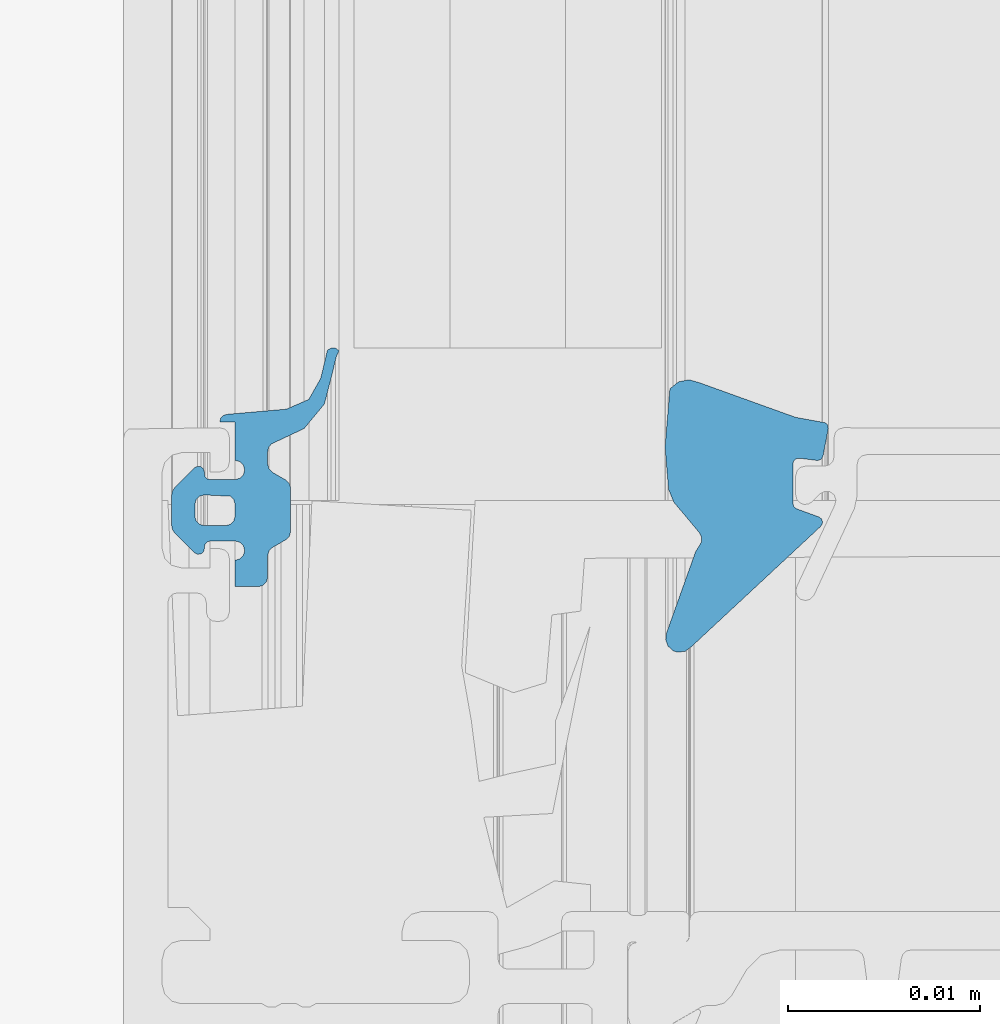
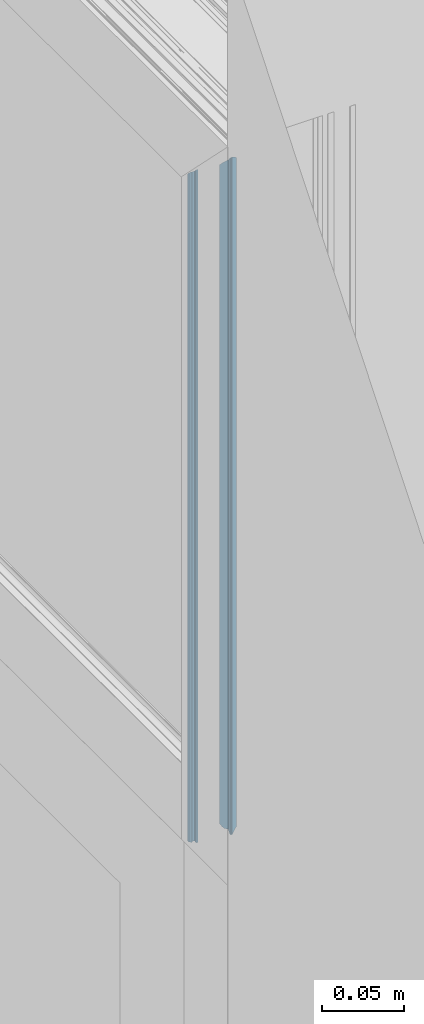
# One storey, part 29 of 62: 1 building element part, 2 elements without a shape of their own.
"""IFC2X3 building model written with IfcOpenShell, lengths in millimetres."""

from ifc_helpers import new_model, entity, si_unit, converted_unit, derived_unit, money_unit, direction, frame, origin_with_axes, place, context, subcontext, project, spatial, faceted_brep, source, transform, mapped, material, type_object, element, aggregate, save


model = new_model("IFC2X3")

# Units and contexts
model_context = context("Model", 3, precision=0.01, world=origin_with_axes(), true_north=direction((0.0, 1.0)))
body_context = subcontext(model_context, "Body", "Model", "MODEL_VIEW")
ifc_project = project(units=[si_unit("LENGTHUNIT", "METRE", prefix="MILLI"), si_unit("AREAUNIT", "SQUARE_METRE"), si_unit("VOLUMEUNIT", "CUBIC_METRE"), converted_unit("PLANEANGLEUNIT", "DEGREE", entity("IfcPlaneAngleMeasure", 0.0174532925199), si_unit("PLANEANGLEUNIT", "RADIAN"), dimensions=[0, 0, 0, 0, 0, 0, 0]), si_unit("SOLIDANGLEUNIT", "STERADIAN"), money_unit("EUR"), converted_unit("TIMEUNIT", "Year", entity("IfcTimeMeasure", 31556926.0), si_unit("TIMEUNIT", "SECOND"), dimensions=[0, 0, 1, 0, 0, 0, 0]), si_unit("MASSUNIT", "GRAM", prefix="KILO"), si_unit("THERMODYNAMICTEMPERATUREUNIT", "DEGREE_CELSIUS"), si_unit("LUMINOUSINTENSITYUNIT", "LUMEN"), si_unit("ENERGYUNIT", "JOULE", prefix="MEGA"), derived_unit("THERMALCONDUCTANCEUNIT", [(si_unit("POWERUNIT", "WATT"), 1), (si_unit("LENGTHUNIT", "METRE"), -1), (si_unit("THERMODYNAMICTEMPERATUREUNIT", "KELVIN"), -1)]), derived_unit("SPECIFICHEATCAPACITYUNIT", [(si_unit("ENERGYUNIT", "JOULE"), 1), (si_unit("MASSUNIT", "GRAM", prefix="KILO"), -1), (si_unit("THERMODYNAMICTEMPERATUREUNIT", "KELVIN"), -1)]), derived_unit("MASSDENSITYUNIT", [(si_unit("MASSUNIT", "GRAM", prefix="KILO"), 1), (si_unit("VOLUMEUNIT", "CUBIC_METRE"), -1)])], contexts=[model_context])

# Site, building, storey
site_placement = place(None, origin_with_axes())
site = spatial("IfcSite", under=ifc_project, at=site_placement, Name="Puškini 31, Narva", CompositionType="ELEMENT")
building_placement = place(site_placement, origin_with_axes())
building = spatial("IfcBuilding", under=site, at=building_placement, Name="Narva Riigigümnaasium", CompositionType="ELEMENT")
storey_placement = place(building_placement, frame((0.0, 0.0, 660.0), z_axis=(0.0, 0.0, 1.0), x_axis=(1.0, 0.0, 0.0)))
storey = spatial("IfcBuildingStorey", under=building, at=storey_placement, Name="2.korrus +0.66", CompositionType="ELEMENT", Elevation=660.0)

# Curtain wall, member, building element part
curtain_wall_type = type_object("IfcCurtainWallType", Name="Curtain Wall Type", PredefinedType="NOTDEFINED")
curtain_wall_placement = place(storey_placement, frame((47544.998162, 221675.502168, -2.45869393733e-05), z_axis=(0.0, 0.0, 1.0), x_axis=(1.0, 0.0, 0.0)))
curtain_wall = element("IfcCurtainWall", 1, at=curtain_wall_placement, inside=storey, type_object=curtain_wall_type, Name="G-SKLF-51")
member_type = type_object("IfcMemberType", Name="61 x 45", PredefinedType="MULLION")
member_placement = place(curtain_wall_placement, frame((0.00169612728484, -395.502317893, 2400.00002459), z_axis=(0.0, 0.0, 1.0), x_axis=(-4.28853941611e-06, 0.999999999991, 0.0)))
member = element("IfcMember", 2, at=member_placement, type_object=member_type, Name="G-SKLF-67-raam", ObjectType="MULLION")
aggregate(curtain_wall, [member])
ifc_material = material(Name="Membraan - Veekindel")
shared_shape = source(origin_with_axes(), body_context, "Body", "Brep", [
    faceted_brep([(61.0413385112, 34.3890442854, -1.80386372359e-07), (59.5800222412, 34.73794757, -1.80386372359e-07), (59.5800222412, 34.73794757, 490.419961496), (61.0413385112, 34.3890442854, 488.958645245), (61.1536677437, 34.1934467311, -1.80386372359e-07), (61.1423164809, 33.9681748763, -1.80386372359e-07), (61.0108941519, 33.784859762, -1.80386372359e-07), (60.7381535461, 33.9217644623, -1.80386372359e-07), (59.8409257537, 34.1343131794, -1.80386372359e-07), (58.2346494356, 34.5489145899, -1.80386372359e-07), (56.9567944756, 35.6067920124, -1.80386372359e-07), (56.2495873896, 37.1074172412, -1.80386372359e-07), (56.1542959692, 37.3107917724, -1.80386372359e-07), (55.9795989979, 37.4519392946, -1.80386372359e-07), (55.7607444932, 37.5023809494, -1.80386372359e-07), (55.1093263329, 37.5023809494, -1.80386372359e-07), (54.8593263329, 37.4353936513, -1.80386372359e-07), (54.676313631, 37.2523809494, -1.80386372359e-07), (54.2721684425, 36.5523809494, -1.80386372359e-07), (54.0891557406, 36.3693682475, -1.80386372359e-07), (53.8391557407, 36.3023809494, -1.80386372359e-07), (51.602145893, 36.3023809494, -1.80386372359e-07), (51.352145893, 36.3693682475, -1.80386372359e-07), (51.1691331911, 36.5523809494, -1.80386372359e-07), (50.7649880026, 37.2523809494, -1.80386372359e-07), (50.5819753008, 37.4353936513, -1.80386372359e-07), (50.3319753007, 37.5023809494, -1.80386372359e-07), (49.2206527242, 37.5023809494, -1.80386372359e-07), (48.9706527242, 37.5693682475, -1.80386372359e-07), (48.7876400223, 37.7523809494, -1.80386372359e-07), (48.7206527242, 38.0023809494, -1.80386372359e-07), (48.7206527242, 39.1999494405, -1.80386372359e-07), (50.10004, 39.1999494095, -1.80386372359e-07), (50.1670287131, 38.9499497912, -1.80386372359e-07), (50.3500424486, 38.7669381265, -1.80386372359e-07), (50.6000428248, 38.699952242, -1.80386372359e-07), (50.8500424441, 38.7669409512, -1.80386372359e-07), (51.0330541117, 38.9499546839, -1.80386372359e-07), (51.10004, 39.1999550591, -1.80386372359e-07), (51.10004, 40.4999366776, -1.80386372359e-07), (51.0598476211, 40.6499366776, -1.80386372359e-07), (50.95004, 40.7597442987, -1.80386372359e-07), (50.80004, 40.7999366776, -1.80386372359e-07), (50.7000457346, 40.7999366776, -1.80386372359e-07), (50.5334025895, 40.8504763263, -1.80386372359e-07), (50.4229059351, 40.9850671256, -1.80386372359e-07), (50.4057850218, 41.1583618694, -1.80386372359e-07), (50.4878083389, 41.3119729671, -1.80386372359e-07), (51.5281601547, 42.3533311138, -1.80386372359e-07), (51.6904310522, 42.4618421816, -1.80386372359e-07), (51.8818844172, 42.4999486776, -1.80386372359e-07), (53.517932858, 42.4999486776, -1.80386372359e-07), (53.7093558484, 42.4618547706, -1.80386372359e-07), (53.8716106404, 42.3533776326, -1.80386372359e-07), (54.9122350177, 41.3120206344, -1.80386372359e-07), (54.9942836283, 41.1584047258, -1.80386372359e-07), (54.9771753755, 40.9850924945, -1.80386372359e-07), (54.866675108, 40.850483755, -1.80386372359e-07), (54.7000173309, 40.7999366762, -1.80386372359e-07), (54.6000210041, 40.7999366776, -1.80386372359e-07), (54.4500210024, 40.7597443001, -1.80386372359e-07), (54.3402133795, 40.6499366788, -1.80386372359e-07), (54.300021, 40.4999366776, -1.80386372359e-07), (54.300021, 39.1999606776, -1.80386372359e-07), (54.3670082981, 38.9499606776, -1.80386372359e-07), (54.5500210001, 38.7669479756, -1.80386372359e-07), (54.8000210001, 38.6999606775, -1.80386372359e-07), (55.0500210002, 38.7669479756, -1.80386372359e-07), (55.2330337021, 38.9499606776, -1.80386372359e-07), (55.3000210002, 39.1999606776, -1.80386372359e-07), (57.3000022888, 39.1999494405, -1.80386372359e-07), (57.3000022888, 39.9999846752, -1.80386372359e-07), (57.5000161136, 39.946391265, -1.80386372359e-07), (57.6464370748, 39.799971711, -1.80386372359e-07), (57.7000324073, 39.5999584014, -1.80386372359e-07), (57.9693613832, 36.5265882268, -1.80386372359e-07), (58.4755028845, 35.3628499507, -1.80386372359e-07), (53.5000340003, 40.7999553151, -1.80386372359e-07), (53.4330491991, 41.0499459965, -1.80386372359e-07), (53.2500433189, 41.2329518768, -1.80386372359e-07), (53.0000526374, 41.299936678, -1.80386372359e-07), (52.4000083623, 41.299936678, -1.80386372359e-07), (52.150017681, 41.2329518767, -1.80386372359e-07), (51.9670118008, 41.0499459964, -1.80386372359e-07), (51.9000269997, 40.799955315, -1.80386372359e-07), (51.9000269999, 39.6999268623, -1.80386372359e-07), (51.9670129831, 39.4499317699, -1.80386372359e-07), (52.1500220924, 39.2669226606, -1.80386372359e-07), (52.4000171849, 39.1999366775, -1.80386372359e-07), (53.0000438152, 39.1999366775, -1.80386372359e-07), (53.2500389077, 39.2669226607, -1.80386372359e-07), (53.433048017, 39.44993177, -1.80386372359e-07), (58.4755028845, 35.3628499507, 491.524480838), (57.9693613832, 36.5265882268, 492.030622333), (57.7000324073, 39.5999584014, 492.299951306), (57.6464370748, 39.799971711, 492.353546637), (57.5000161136, 39.946391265, 492.499967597), (57.3000022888, 39.9999846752, 492.699981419), (57.3000022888, 39.1999494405, 492.699981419), (55.3000210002, 39.1999606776, 494.699962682), (55.2330337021, 38.9499606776, 494.766949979), (55.0500210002, 38.7669479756, 494.949962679), (54.8000210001, 38.6999606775, 495.199962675), (54.5500210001, 38.7669479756, 495.449962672), (54.3670082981, 38.9499606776, 495.632975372), (54.300021, 39.1999606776, 495.699962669), (54.300021, 40.4999366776, 495.699962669), (54.3402133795, 40.6499366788, 495.65977029), (54.4500210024, 40.7597443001, 495.549962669), (54.6000210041, 40.7999366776, 495.399962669), (54.7000173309, 40.7999366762, 495.299966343), (54.866675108, 40.850483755, 495.133308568), (54.9771753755, 40.9850924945, 495.022808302), (54.9942836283, 41.1584047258, 495.00570005), (54.9122350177, 41.3120206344, 495.087748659), (53.8716106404, 42.3533776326, 496.128373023), (53.7093558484, 42.4618547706, 496.290627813), (53.517932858, 42.4999486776, 496.482050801), (51.8818844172, 42.4999486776, 498.118099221), (51.6904310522, 42.4618421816, 498.309552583), (51.5281601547, 42.3533311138, 498.471823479), (50.4878083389, 41.3119729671, 499.512175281), (50.4057850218, 41.1583618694, 499.594198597), (50.4229059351, 40.9850671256, 499.577077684), (50.5334025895, 40.8504763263, 499.466581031), (50.7000457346, 40.7999366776, 499.299937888), (50.80004, 40.7999366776, 499.199943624), (50.95004, 40.7597442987, 499.049943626), (51.0598476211, 40.6499366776, 498.940136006), (51.10004, 40.4999366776, 498.899943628), (51.10004, 39.1999550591, 498.899943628), (51.0330541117, 38.9499546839, 498.966929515), (50.8500424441, 38.7669409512, 499.14994118), (50.6000428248, 38.699952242, 499.399940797), (50.3500424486, 38.7669381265, 499.649941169), (50.1670287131, 38.9499497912, 499.832954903), (50.10004, 39.1999494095, 499.899943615), (48.7206527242, 39.1999494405, 501.279330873), (48.7206527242, 38.0023809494, 501.279330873), (48.7876400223, 37.7523809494, 501.212343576), (48.9706527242, 37.5693682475, 501.029330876), (49.2206527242, 37.5023809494, 500.779330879), (50.3319753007, 37.5023809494, 499.668008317), (50.5819753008, 37.4353936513, 499.41800832), (50.7649880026, 37.2523809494, 499.234995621), (51.1691331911, 36.5523809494, 498.830850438), (51.352145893, 36.3693682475, 498.647837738), (51.602145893, 36.3023809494, 498.397837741), (53.8391557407, 36.3023809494, 496.160827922), (54.0891557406, 36.3693682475, 495.910827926), (54.2721684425, 36.5523809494, 495.727815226), (54.676313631, 37.2523809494, 495.323670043), (54.8593263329, 37.4353936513, 495.140657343), (55.1093263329, 37.5023809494, 494.890657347), (55.7607444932, 37.5023809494, 494.239239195), (55.9795989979, 37.4519392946, 494.020384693), (56.1542959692, 37.3107917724, 493.845687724), (56.2495873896, 37.1074172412, 493.750396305), (56.9567944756, 35.6067920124, 493.043189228), (58.2346494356, 34.5489145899, 491.765334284), (59.8409257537, 34.1343131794, 490.159057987), (60.7381535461, 33.9217644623, 489.261830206), (61.0108941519, 33.784859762, 488.989089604), (61.1423164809, 33.9681748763, 488.857667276), (61.1536677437, 34.1934467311, 488.846316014), (53.5000340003, 40.7999553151, 496.499949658), (53.433048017, 39.44993177, 496.566935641), (53.2500389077, 39.2669226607, 496.749944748), (53.0000438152, 39.1999366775, 496.999939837), (52.4000171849, 39.1999366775, 497.59996646), (52.1500220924, 39.2669226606, 497.849961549), (51.9670129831, 39.4499317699, 498.032970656), (51.9000269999, 39.6999268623, 498.099956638), (51.9000269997, 40.799955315, 498.099956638), (51.9670118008, 41.0499459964, 498.032971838), (52.150017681, 41.2329518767, 497.84996596), (52.4000083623, 41.299936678, 497.599975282), (53.0000526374, 41.299936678, 496.999931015), (53.2500433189, 41.2329518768, 496.749940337), (53.4330491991, 41.0499459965, 496.566934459)], [[[0, 1, 2, 3]], [[0, 4, 5, 6, 7, 8, 9, 10, 11, 12, 13, 14, 15, 16, 17, 18, 19, 20, 21, 22, 23, 24, 25, 26, 27, 28, 29, 30, 31, 32, 33, 34, 35, 36, 37, 38, 39, 40, 41, 42, 43, 44, 45, 46, 47, 48, 49, 50, 51, 52, 53, 54, 55, 56, 57, 58, 59, 60, 61, 62, 63, 64, 65, 66, 67, 68, 69, 70, 71, 72, 73, 74, 75, 76, 1], [77, 78, 79, 80, 81, 82, 83, 84, 85, 86, 87, 88, 89, 90, 91]], [[1, 76, 92, 2]], [[3, 2, 92, 93, 94, 95, 96, 97, 98, 99, 100, 101, 102, 103, 104, 105, 106, 107, 108, 109, 110, 111, 112, 113, 114, 115, 116, 117, 118, 119, 120, 121, 122, 123, 124, 125, 126, 127, 128, 129, 130, 131, 132, 133, 134, 135, 136, 137, 138, 139, 140, 141, 142, 143, 144, 145, 146, 147, 148, 149, 150, 151, 152, 153, 154, 155, 156, 157, 158, 159, 160, 161, 162, 163, 164], [165, 166, 167, 168, 169, 170, 171, 172, 173, 174, 175, 176, 177, 178, 179]], [[4, 0, 3, 164]], [[5, 4, 164, 163]], [[6, 5, 163, 162]], [[7, 6, 162, 161]], [[8, 7, 161, 160]], [[9, 8, 160, 159]], [[10, 9, 159, 158]], [[11, 10, 158, 157]], [[12, 11, 157, 156]], [[13, 12, 156, 155]], [[14, 13, 155, 154]], [[15, 14, 154, 153]], [[16, 15, 153, 152]], [[17, 16, 152, 151]], [[18, 17, 151, 150]], [[19, 18, 150, 149]], [[20, 19, 149, 148]], [[21, 20, 148, 147]], [[22, 21, 147, 146]], [[23, 22, 146, 145]], [[24, 23, 145, 144]], [[25, 24, 144, 143]], [[26, 25, 143, 142]], [[27, 26, 142, 141]], [[28, 27, 141, 140]], [[29, 28, 140, 139]], [[30, 29, 139, 138]], [[31, 30, 138, 137]], [[32, 31, 137, 136]], [[33, 32, 136, 135]], [[34, 33, 135, 134]], [[35, 34, 134, 133]], [[36, 35, 133, 132]], [[37, 36, 132, 131]], [[38, 37, 131, 130]], [[39, 38, 130, 129]], [[40, 39, 129, 128]], [[41, 40, 128, 127]], [[42, 41, 127, 126]], [[43, 42, 126, 125]], [[44, 43, 125, 124]], [[45, 44, 124, 123]], [[46, 45, 123, 122]], [[47, 46, 122, 121]], [[48, 47, 121, 120]], [[49, 48, 120, 119]], [[50, 49, 119, 118]], [[51, 50, 118, 117]], [[52, 51, 117, 116]], [[53, 52, 116, 115]], [[54, 53, 115, 114]], [[55, 54, 114, 113]], [[56, 55, 113, 112]], [[57, 56, 112, 111]], [[58, 57, 111, 110]], [[59, 58, 110, 109]], [[60, 59, 109, 108]], [[61, 60, 108, 107]], [[62, 61, 107, 106]], [[63, 62, 106, 105]], [[64, 63, 105, 104]], [[65, 64, 104, 103]], [[66, 65, 103, 102]], [[67, 66, 102, 101]], [[68, 67, 101, 100]], [[69, 68, 100, 99]], [[70, 69, 99, 98]], [[71, 70, 98, 97]], [[72, 71, 97, 96]], [[73, 72, 96, 95]], [[74, 73, 95, 94]], [[75, 74, 94, 93]], [[76, 75, 93, 92]], [[78, 77, 165, 179]], [[79, 78, 179, 178]], [[80, 79, 178, 177]], [[81, 80, 177, 176]], [[82, 81, 176, 175]], [[83, 82, 175, 174]], [[84, 83, 174, 173]], [[85, 84, 173, 172]], [[86, 85, 172, 171]], [[87, 86, 171, 170]], [[88, 87, 170, 169]], [[89, 88, 169, 168]], [[90, 89, 168, 167]], [[91, 90, 167, 166]], [[77, 91, 166, 165]]]),
    faceted_brep([(59.0307115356, 16.554149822, -1.80386372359e-07), (55.9926715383, 16.8063498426, -1.80386372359e-07), (55.9926715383, 16.8063498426, 494.007312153), (59.0307115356, 16.554149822, 490.969272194), (59.3884652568, 16.1092618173, -1.80386372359e-07), (59.5001582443, 15.5494067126, -1.80386372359e-07), (59.3405112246, 15.0012955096, -1.80386372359e-07), (57.5418652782, 10.0035930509, -1.80386372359e-07), (57.2632233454, 8.46932121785, -1.80386372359e-07), (57.1824204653, 8.36745448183, -1.80386372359e-07), (57.0661058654, 8.3093438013, -1.80386372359e-07), (56.9361285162, 8.30590490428, -1.80386372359e-07), (55.5361285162, 8.57803733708, -1.80386372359e-07), (55.4168250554, 8.62997353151, -1.80386372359e-07), (55.3307332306, 8.72753828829, -1.80386372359e-07), (55.2940485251, 8.85237785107, -1.80386372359e-07), (55.4099827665, 9.81272116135, -1.80386372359e-07), (55.3838261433, 9.9780831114, -1.80386372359e-07), (55.2731258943, 10.1036784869, -1.80386372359e-07), (55.1123574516, 10.1503930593, -1.80386372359e-07), (53.0580290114, 10.1503930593, -1.80386372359e-07), (52.8859560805, 10.0961386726, -1.80386372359e-07), (52.7761212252, 9.95299910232, -1.80386372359e-07), (52.3556584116, 8.79778701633, -1.80386372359e-07), (52.2574645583, 8.66326410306, -1.80386372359e-07), (52.1026310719, 8.60190419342, -1.80386372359e-07), (51.938943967, 8.6326446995, -1.80386372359e-07), (51.8169217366, 8.74599822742, -1.80386372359e-07), (45.6142070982, 15.4144760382, -1.80386372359e-07), (45.3418968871, 15.7688623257, -1.80386372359e-07), (45.3195226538, 16.2152275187, -1.80386372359e-07), (45.3889077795, 16.3899097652, -1.80386372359e-07), (45.6241929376, 16.6482027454, -1.80386372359e-07), (45.950966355, 16.7718696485, -1.80386372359e-07), (46.298307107, 16.7340705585, -1.80386372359e-07), (50.5536994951, 15.2121179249, -1.80386372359e-07), (50.8437237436, 15.0307134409, -1.80386372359e-07), (51.0558924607, 14.9074036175, -1.80386372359e-07), (51.3011765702, 14.8998814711, -1.80386372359e-07), (51.5205025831, 15.0099586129, -1.80386372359e-07), (53.1225200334, 16.3483062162, -1.80386372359e-07), (53.7899070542, 16.6230039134, -1.80386372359e-07), (53.7899070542, 16.6230039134, 496.210076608), (53.1225200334, 16.3483062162, 496.87746362), (51.5205025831, 15.0099586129, 498.47948105), (51.3011765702, 14.8998814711, 498.69880706), (51.0558924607, 14.9074036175, 498.944091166), (50.8437237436, 15.0307134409, 499.156259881), (50.5536994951, 15.2121179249, 499.446284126), (46.298307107, 16.7340705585, 503.701676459), (45.950966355, 16.7718696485, 504.049017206), (45.6241929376, 16.6482027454, 504.37579062), (45.3889077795, 16.3899097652, 504.611075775), (45.3195226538, 16.2152275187, 504.680460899), (45.3418968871, 15.7688623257, 504.658086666), (45.6142070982, 15.4144760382, 504.385776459), (51.8169217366, 8.74599822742, 498.1830619), (51.938943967, 8.6326446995, 498.061039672), (52.1026310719, 8.60190419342, 497.897352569), (52.2574645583, 8.66326410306, 497.742519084), (52.3556584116, 8.79778701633, 497.644325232), (52.7761212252, 9.95299910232, 497.223862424), (52.8859560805, 10.0961386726, 497.11402757), (53.0580290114, 10.1503930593, 496.941954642), (55.1123574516, 10.1503930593, 494.887626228), (55.2731258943, 10.1036784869, 494.726857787), (55.3838261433, 9.9780831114, 494.61615754), (55.4099827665, 9.81272116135, 494.590000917), (55.2940485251, 8.85237785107, 494.705935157), (55.3307332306, 8.72753828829, 494.669250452), (55.4168250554, 8.62997353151, 494.583158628), (55.5361285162, 8.57803733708, 494.463855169), (56.9361285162, 8.30590490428, 493.063855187), (57.0661058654, 8.3093438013, 492.933877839), (57.1824204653, 8.36745448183, 492.817563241), (57.2632233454, 8.46932121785, 492.736760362), (57.5418652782, 10.0035930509, 492.458118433), (59.3405112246, 15.0012955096, 490.659472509), (59.5001582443, 15.5494067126, 490.499825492), (59.3884652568, 16.1092618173, 490.611518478)], [[[0, 1, 2, 3]], [[0, 4, 5, 6, 7, 8, 9, 10, 11, 12, 13, 14, 15, 16, 17, 18, 19, 20, 21, 22, 23, 24, 25, 26, 27, 28, 29, 30, 31, 32, 33, 34, 35, 36, 37, 38, 39, 40, 41, 1]], [[1, 41, 42, 2]], [[3, 2, 42, 43, 44, 45, 46, 47, 48, 49, 50, 51, 52, 53, 54, 55, 56, 57, 58, 59, 60, 61, 62, 63, 64, 65, 66, 67, 68, 69, 70, 71, 72, 73, 74, 75, 76, 77, 78, 79]], [[4, 0, 3, 79]], [[5, 4, 79, 78]], [[6, 5, 78, 77]], [[7, 6, 77, 76]], [[8, 7, 76, 75]], [[9, 8, 75, 74]], [[10, 9, 74, 73]], [[11, 10, 73, 72]], [[12, 11, 72, 71]], [[13, 12, 71, 70]], [[14, 13, 70, 69]], [[15, 14, 69, 68]], [[16, 15, 68, 67]], [[17, 16, 67, 66]], [[18, 17, 66, 65]], [[19, 18, 65, 64]], [[20, 19, 64, 63]], [[21, 20, 63, 62]], [[22, 21, 62, 61]], [[23, 22, 61, 60]], [[24, 23, 60, 59]], [[25, 24, 59, 58]], [[26, 25, 58, 57]], [[27, 26, 57, 56]], [[28, 27, 56, 55]], [[29, 28, 55, 54]], [[30, 29, 54, 53]], [[31, 30, 53, 52]], [[32, 31, 52, 51]], [[33, 32, 51, 50]], [[34, 33, 50, 49]], [[35, 34, 49, 48]], [[36, 35, 48, 47]], [[37, 36, 47, 46]], [[38, 37, 46, 45]], [[39, 38, 45, 44]], [[40, 39, 44, 43]], [[41, 40, 43, 42]]]),
])
building_element_part_placement = place(member_placement, origin_with_axes())
building_element_part = element("IfcBuildingElementPart", 3, at=building_element_part_placement, material=ifc_material, Name="Membraan - Veekindel", context=body_context, shape_type="MappedRepresentation", body=[
    mapped(shared_shape, transform((0.0, 0.0, 0.0))),
])
aggregate(member, [building_element_part])

save(model, "model.ifc")
